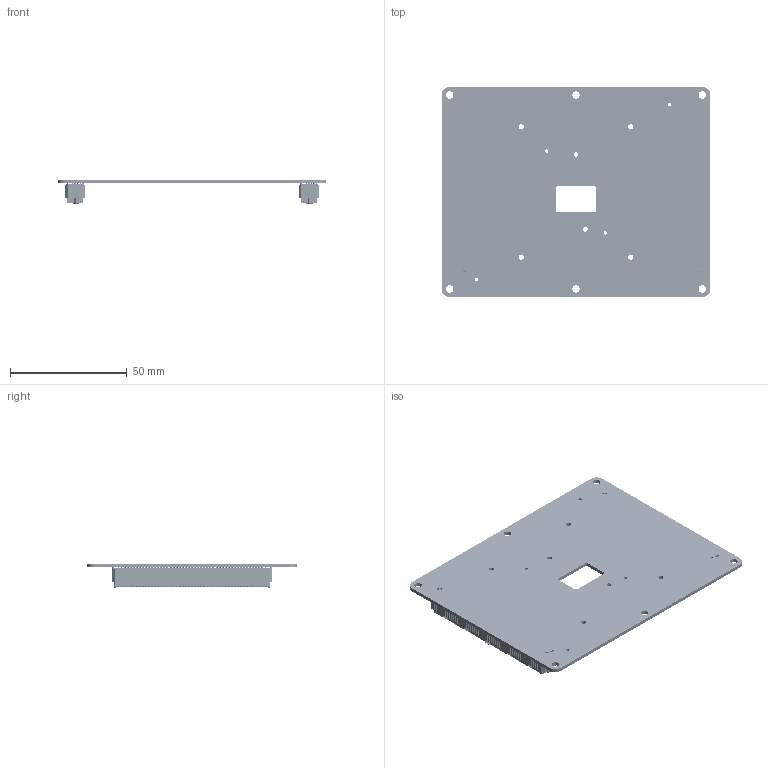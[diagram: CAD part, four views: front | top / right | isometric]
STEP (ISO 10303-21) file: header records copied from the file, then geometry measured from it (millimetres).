
FILE_DESCRIPTION(('Open CASCADE Model'),'2;1');
FILE_NAME('Open CASCADE Shape Model','2025-12-18T10:47:30',('Author'),( 'Open CASCADE'),'Open CASCADE STEP processor 7.5','Open CASCADE 7.5' ,'Unknown');
FILE_SCHEMA(('AUTOMOTIVE_DESIGN { 1 0 10303 214 1 1 1 1 }'));
Length unit declared in the file: millimetre
Products named in the file (9): PCB; Board; Open CASCADE STEP translator 7.5 1.1.1; M2; APM6-100-06.5-L-04-0-A-TR; APM6-100-06.5-04-A_BODY; APM6-06.5-100_PINS; K-DOT-.295-.406-.005_APM6; M1
Assembly tree (10 placements, depth 4):
  PCB
    Board
      Open CASCADE STEP translator 7.5 1.1.1
    M2
      APM6-100-06.5-L-04-0-A-TR
        APM6-100-06.5-04-A_BODY
        APM6-06.5-100_PINS  x2
        K-DOT-.295-.406-.005_APM6
    M1
      APM6-100-06.5-L-04-0-A-TR
        APM6-100-06.5-04-A_BODY
        APM6-06.5-100_PINS  x2
        K-DOT-.295-.406-.005_APM6
Bounding box: 115 x 90 x 10.68 mm (x, y, z)
Volume: 23222.9 mm3; surface area: 35228.9 mm2
Topology: 9 solids, 9 shells, 14028 faces, 37604 edges, 25326 vertices
Faces by surface type: plane 11584, cylinder 2442, torus 2
Full cylindrical faces by diameter (mm): 0.137 x800, 0.41 x800, 0.8 x2, 0.95 x4, 1 x2, 1.5 x4, 2.05 x2, 2.2 x4, 3.2 x6, 7.5 x2
Entity records: 148643 total; most frequent: CARTESIAN_POINT 26859, ORIENTED_EDGE 25966, DIRECTION 23559, EDGE_CURVE 12983, LINE 11103, VECTOR 11103, VERTEX_POINT 8717, AXIS2_PLACEMENT_3D 6228
